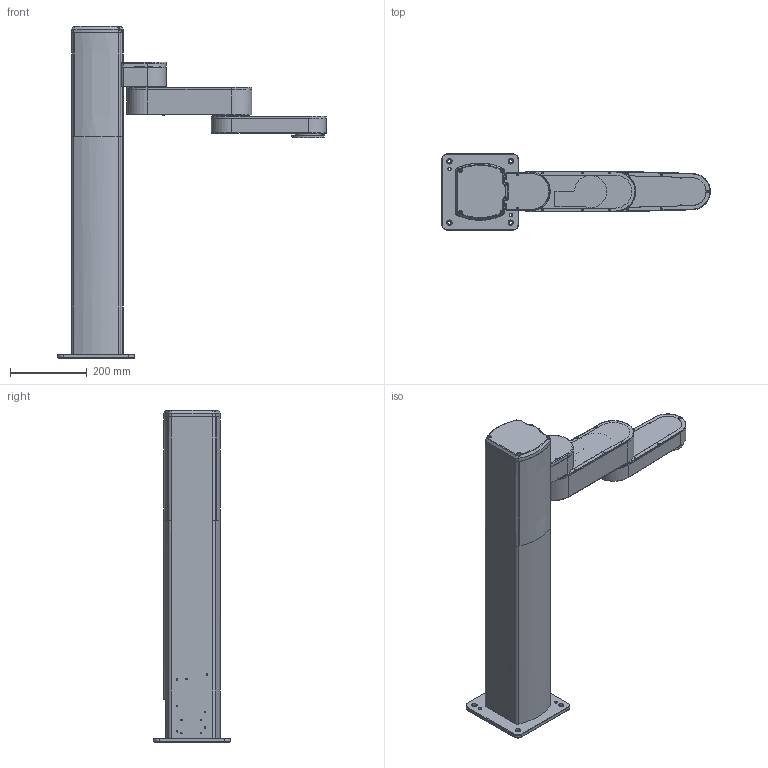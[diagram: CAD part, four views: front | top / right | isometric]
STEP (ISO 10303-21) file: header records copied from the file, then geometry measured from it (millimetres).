
FILE_DESCRIPTION(('CATIA V5 STEP Exchange'),'2;1');
FILE_NAME('E:\YFX工作文件\1 机械臂\机械臂简图\2442系列\5142\Z-Arm 5142.stp','2021-09-18T02:07:47+00:00',('none'),('none'),'CATIA Version 5 Release 20 GA (IN-10)','CATIA V5 STEP AP203','none');
FILE_SCHEMA(('CONFIG_CONTROL_DESIGN'));
Length unit declared in the file: millimetre
Products named in the file (6): 产品1; 产品5; LIANJIEBAN; 101-012-10-01-02; 101-012-10-03; 101-012-10-02
Assembly tree (24 placements, depth 4):
  产品1
    产品5
      #66
      #8575
      #11002
      LIANJIEBAN
        #15377
        #19405
      #20021
      #22198
    101-012-10-01-02
      #26565
      #29708
    101-012-10-03
      #33174
      #35420
      #36777
      #37818
    101-012-10-02
      #38599
      #41231
      #42823
      #44238
      #46137
    #46656
Bounding box: 700.5 x 200 x 866 mm (x, y, z)
Volume: 7732433.7 mm3; surface area: 1514007.8 mm2
Topology: 19 solids, 19 shells, 1510 faces, 3979 edges, 2533 vertices
Faces by surface type: cylinder 693, plane 434, cone 254, extrusion 73, torus 51, bspline 5
Entity records: 51088 total; most frequent: CARTESIAN_POINT 15059, ORIENTED_EDGE 7838, DIRECTION 6083, EDGE_CURVE 3919, AXIS2_PLACEMENT_3D 2691, VERTEX_POINT 2533, VECTOR 2029, LINE 1956
